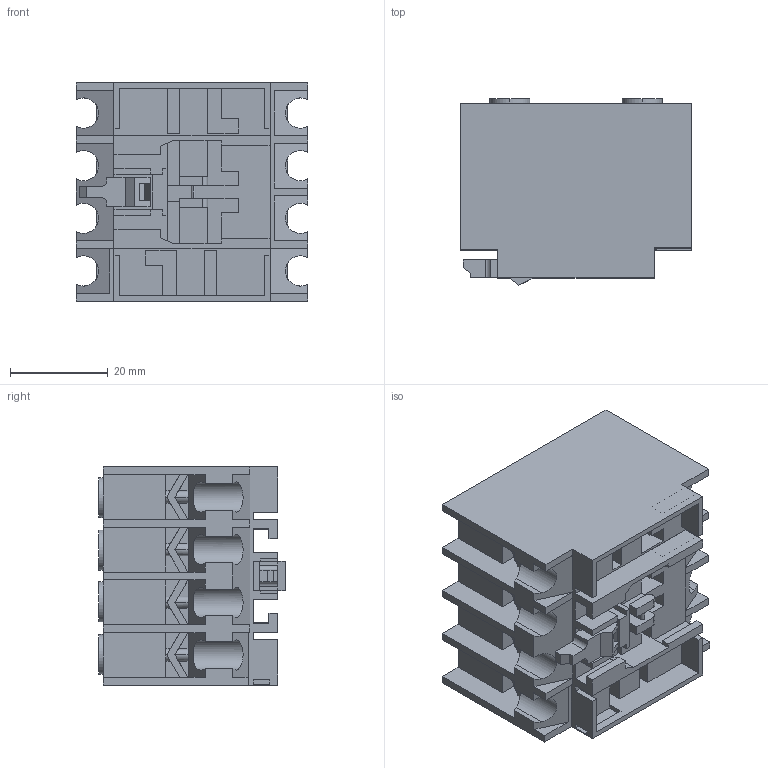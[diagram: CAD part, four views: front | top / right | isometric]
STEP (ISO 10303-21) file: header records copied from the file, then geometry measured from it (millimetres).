
FILE_DESCRIPTION (( 'STEP AP214' ), '1' );
FILE_NAME ('ﾏﾊﾋ - 22.STEP', '2016-05-25T12:07:33', ( '' ), ( '' ), 'SwSTEP 2.0', 'SolidWorks 2012', '' );
FILE_SCHEMA (( 'AUTOMOTIVE_DESIGN' ));
Length unit declared in the file: millimetre
Products named in the file (1): ﾏﾊﾋ - 22
Bounding box: 47.5 x 38.23 x 44.78 mm (x, y, z)
Volume: 51272 mm3; surface area: 19723 mm2
Topology: 1 solids, 1 shells, 567 faces, 1595 edges, 1044 vertices
Faces by surface type: plane 471, cylinder 96
Entity records: 24304 total; most frequent: CARTESIAN_POINT 3471, ORIENTED_EDGE 3190, DIRECTION 2843, EDGE_CURVE 1595, LINE 1307, VECTOR 1307, VERTEX_POINT 1044, AXIS2_PLACEMENT_3D 768
